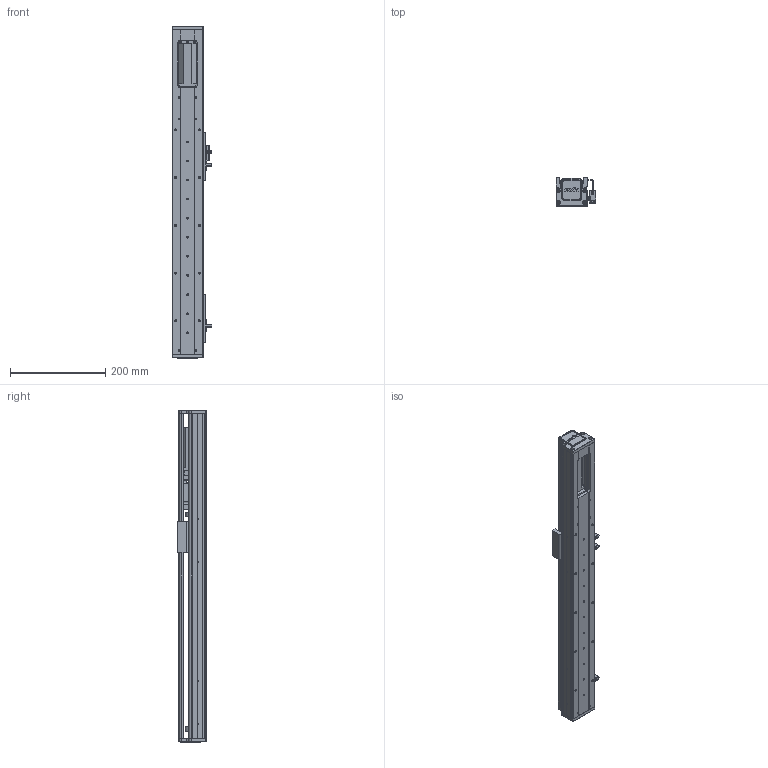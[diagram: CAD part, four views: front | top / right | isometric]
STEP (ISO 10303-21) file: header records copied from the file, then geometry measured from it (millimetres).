
FILE_DESCRIPTION (( 'STEP AP203' ), '1' );
FILE_NAME ('RY60-L1210-300-IK.SLDASM_350.step', '2021-02-22T05:12:02', ( '盈信电脑' ), ( '东莞市道滘镇水果街19号' ), 'SwSTEP 2.0', 'SolidWorks 2012', '' );
FILE_SCHEMA (( 'CONFIG_CONTROL_DESIGN' ));
Length unit declared in the file: millimetre
Products named in the file (12): 侂狟100W; RY60-内置电机板100W（m3）; RY60-L1210-300-IK.SLDASM_350; 滅袉蝶18-10; 覜茼ん672; RY60綴裔啣; RY80俋离覜茼え; 672嫖萇羲壽假蚾釱; RY60萇儂傷盓傅釱; RY60-300倰第裔啣-IK_350; RY60-300倰第菁釱-IK_350; RY60臏賑輸
Assembly tree (18 placements, depth 2):
  RY60-L1210-300-IK.SLDASM_350
    RY60-300倰第菁釱-IK_350
    RY60臏賑輸
    RY60-300倰第裔啣-IK_350
    RY60萇儂傷盓傅釱
    672嫖萇羲壽假蚾釱  x2
    RY60綴裔啣  x2
    覜茼ん672  x3
    RY80俋离覜茼え
    侂狟100W
    滅袉蝶18-10  x4
    RY60-内置电机板100W（m3）
Bounding box: 83.7 x 61 x 696 mm (x, y, z)
Volume: 923397 mm3; surface area: 446090 mm2
Topology: 18 solids, 18 shells, 1477 faces, 4122 edges, 2669 vertices
Faces by surface type: plane 793, cylinder 576, cone 92, bspline 16
Entity records: 39715 total; most frequent: CARTESIAN_POINT 9420, ORIENTED_EDGE 6152, DIRECTION 5875, EDGE_CURVE 3076, VERTEX_POINT 2015, AXIS2_PLACEMENT_3D 1984, VECTOR 1907, LINE 1907
